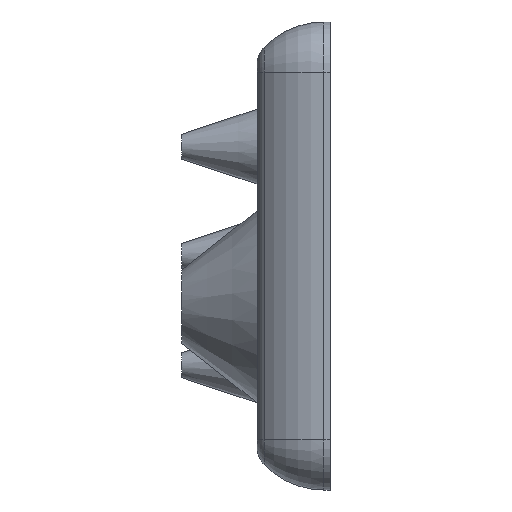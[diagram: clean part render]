
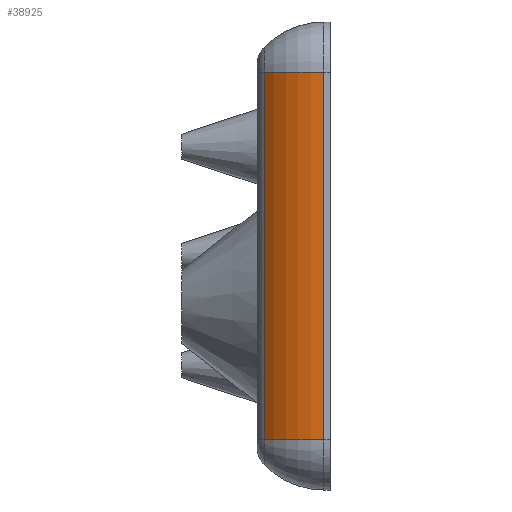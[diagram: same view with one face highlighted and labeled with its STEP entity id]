
A CAD part, left-side view. The second image highlights one B-rep face of the part: STEP entity #38925.
In plain terms, the highlighted cylindrical face has radius 10 mm (diameter 20 mm), a partial arc.
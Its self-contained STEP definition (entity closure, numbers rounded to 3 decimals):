
#497 = LINE ( 'NONE', #29230, #11663 ) ;
#3714 = AXIS2_PLACEMENT_3D ( 'NONE', #14159, #35213, #22595 ) ;
#8332 = DIRECTION ( 'NONE',  ( 0., 0., -1. ) ) ;
#9520 = CARTESIAN_POINT ( 'NONE',  ( 17.131, 92.191, 64.516 ) ) ;
#10385 = DIRECTION ( 'NONE',  ( 0., 0., 1. ) ) ;
#11663 = VECTOR ( 'NONE', #8332, 1000. ) ;
#14159 = CARTESIAN_POINT ( 'NONE',  ( 24.129, 85.048, 64.516 ) ) ;
#15345 = VERTEX_POINT ( 'NONE', #30080 ) ;
#15867 = FACE_OUTER_BOUND ( 'NONE', #52202, .T. ) ;
#16938 = DIRECTION ( 'NONE',  ( 0., 0., 1. ) ) ;
#19212 = EDGE_CURVE ( 'NONE', #46602, #15345, #31779, .T. ) ;
#21634 = CARTESIAN_POINT ( 'NONE',  ( 14.129, 85.048, 108.516 ) ) ;
#22595 = DIRECTION ( 'NONE',  ( 1., 0., 0. ) ) ;
#25491 = VERTEX_POINT ( 'NONE', #45968 ) ;
#25712 = CIRCLE ( 'NONE', #30930, 10. ) ;
#25721 = CARTESIAN_POINT ( 'NONE',  ( 14.129, 85.048, 108.516 ) ) ;
#27149 = AXIS2_PLACEMENT_3D ( 'NONE', #42080, #16938, #46307 ) ;
#29230 = CARTESIAN_POINT ( 'NONE',  ( 17.131, 92.191, 108.516 ) ) ;
#29914 = DIRECTION ( 'NONE',  ( 0., 0., -1. ) ) ;
#30080 = CARTESIAN_POINT ( 'NONE',  ( 14.129, 85.048, 64.516 ) ) ;
#30930 = AXIS2_PLACEMENT_3D ( 'NONE', #35509, #10385, #39749 ) ;
#31779 = CIRCLE ( 'NONE', #27149, 10. ) ;
#33805 = EDGE_CURVE ( 'NONE', #54293, #15345, #51180, .T. ) ;
#34549 = EDGE_CURVE ( 'NONE', #25491, #46602, #497, .T. ) ;
#35213 = DIRECTION ( 'NONE',  ( 0., 0., 1. ) ) ;
#35509 = CARTESIAN_POINT ( 'NONE',  ( 24.129, 85.048, 108.516 ) ) ;
#36704 = ORIENTED_EDGE ( 'NONE', *, *, #33805, .F. ) ;
#36836 = CYLINDRICAL_SURFACE ( 'NONE', #3714, 10. ) ;
#37356 = VECTOR ( 'NONE', #29914, 1000. ) ;
#38925 = ADVANCED_FACE ( 'NONE', ( #15867 ), #36836, .T. ) ;
#39749 = DIRECTION ( 'NONE',  ( 1., 0., 0. ) ) ;
#41954 = ORIENTED_EDGE ( 'NONE', *, *, #34549, .T. ) ;
#42080 = CARTESIAN_POINT ( 'NONE',  ( 24.129, 85.048, 64.516 ) ) ;
#42580 = ORIENTED_EDGE ( 'NONE', *, *, #49513, .F. ) ;
#45968 = CARTESIAN_POINT ( 'NONE',  ( 17.131, 92.191, 108.516 ) ) ;
#46307 = DIRECTION ( 'NONE',  ( 1., 0., 0. ) ) ;
#46602 = VERTEX_POINT ( 'NONE', #9520 ) ;
#49513 = EDGE_CURVE ( 'NONE', #25491, #54293, #25712, .T. ) ;
#49851 = ORIENTED_EDGE ( 'NONE', *, *, #19212, .T. ) ;
#51180 = LINE ( 'NONE', #25721, #37356 ) ;
#52202 = EDGE_LOOP ( 'NONE', ( #49851, #36704, #42580, #41954 ) ) ;
#54293 = VERTEX_POINT ( 'NONE', #21634 ) ;
